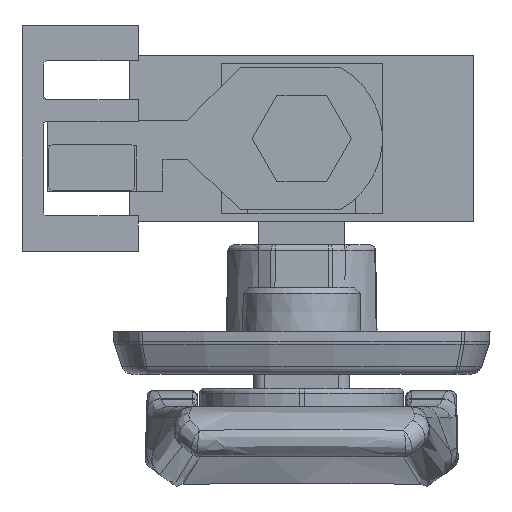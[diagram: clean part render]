
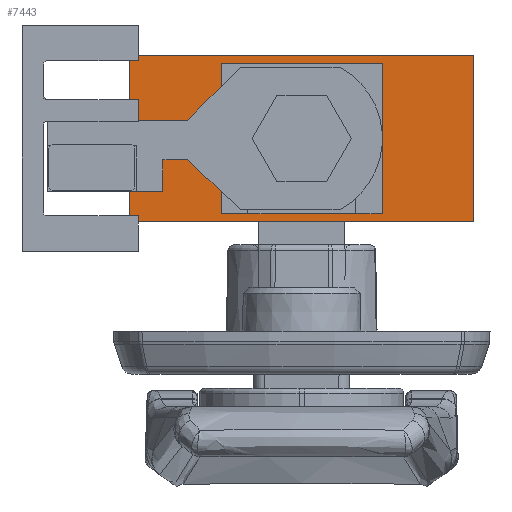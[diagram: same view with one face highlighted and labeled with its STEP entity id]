
A CAD part, front view. The second image highlights one B-rep face of the part: STEP entity #7443.
In plain terms, the highlighted planar face has unit normal (0, -1, 0).
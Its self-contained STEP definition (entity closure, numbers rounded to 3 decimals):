
#724 = CARTESIAN_POINT ( 'NONE',  ( -7., -72.75, -6.25 ) ) ;
#861 = VECTOR ( 'NONE', #3060, 1000. ) ;
#884 = DIRECTION ( 'NONE',  ( 0., 0., -1. ) ) ;
#1543 = EDGE_CURVE ( 'NONE', #27956, #8688, #6269, .T. ) ;
#1721 = DIRECTION ( 'NONE',  ( 0., 0., -1. ) ) ;
#1826 = LINE ( 'NONE', #10901, #5719 ) ;
#2156 = CARTESIAN_POINT ( 'NONE',  ( 7., -72.75, 6.25 ) ) ;
#2866 = FACE_BOUND ( 'NONE', #10383, .T. ) ;
#2943 = CARTESIAN_POINT ( 'NONE',  ( -16., -72.75, 7.75 ) ) ;
#3060 = DIRECTION ( 'NONE',  ( 0., 0., 1. ) ) ;
#3353 = VERTEX_POINT ( 'NONE', #20337 ) ;
#3497 = VERTEX_POINT ( 'NONE', #20957 ) ;
#4099 = CARTESIAN_POINT ( 'NONE',  ( -16., -72.75, -7.75 ) ) ;
#5265 = LINE ( 'NONE', #27351, #14588 ) ;
#5369 = FACE_OUTER_BOUND ( 'NONE', #6887, .T. ) ;
#5436 = CARTESIAN_POINT ( 'NONE',  ( 7., -72.75, -6.25 ) ) ;
#5564 = VECTOR ( 'NONE', #884, 1000. ) ;
#5609 = VERTEX_POINT ( 'NONE', #9839 ) ;
#5719 = VECTOR ( 'NONE', #20443, 1000. ) ;
#6269 = LINE ( 'NONE', #13626, #25534 ) ;
#6887 = EDGE_LOOP ( 'NONE', ( #13827, #29185, #17857, #10668 ) ) ;
#7279 = VERTEX_POINT ( 'NONE', #29971 ) ;
#7443 = ADVANCED_FACE ( 'NONE', ( #2866, #5369 ), #19292, .F. ) ;
#8647 = DIRECTION ( 'NONE',  ( -1., 0., 0. ) ) ;
#8688 = VERTEX_POINT ( 'NONE', #13273 ) ;
#9740 = DIRECTION ( 'NONE',  ( 0., 0., 1. ) ) ;
#9839 = CARTESIAN_POINT ( 'NONE',  ( -7., -72.75, 6.25 ) ) ;
#10084 = CARTESIAN_POINT ( 'NONE',  ( 7., -72.75, 6.25 ) ) ;
#10108 = ORIENTED_EDGE ( 'NONE', *, *, #23764, .F. ) ;
#10383 = EDGE_LOOP ( 'NONE', ( #25140, #10108, #29672, #19520 ) ) ;
#10668 = ORIENTED_EDGE ( 'NONE', *, *, #1543, .T. ) ;
#10901 = CARTESIAN_POINT ( 'NONE',  ( -7., -72.75, -6.25 ) ) ;
#11679 = CARTESIAN_POINT ( 'NONE',  ( -16., -72.75, 7.75 ) ) ;
#11704 = VERTEX_POINT ( 'NONE', #2156 ) ;
#13273 = CARTESIAN_POINT ( 'NONE',  ( -16., -72.75, -7.75 ) ) ;
#13626 = CARTESIAN_POINT ( 'NONE',  ( -16., -72.75, 7.75 ) ) ;
#13800 = VERTEX_POINT ( 'NONE', #5436 ) ;
#13827 = ORIENTED_EDGE ( 'NONE', *, *, #23874, .T. ) ;
#14454 = CARTESIAN_POINT ( 'NONE',  ( -16., -72.75, 7.75 ) ) ;
#14494 = LINE ( 'NONE', #11679, #29267 ) ;
#14588 = VECTOR ( 'NONE', #19654, 1000. ) ;
#14989 = VECTOR ( 'NONE', #8647, 1000. ) ;
#16882 = EDGE_CURVE ( 'NONE', #3497, #13800, #1826, .T. ) ;
#17857 = ORIENTED_EDGE ( 'NONE', *, *, #28333, .F. ) ;
#17910 = LINE ( 'NONE', #724, #5564 ) ;
#18567 = EDGE_CURVE ( 'NONE', #3353, #7279, #5265, .T. ) ;
#18808 = CARTESIAN_POINT ( 'NONE',  ( 7., -72.75, 6.25 ) ) ;
#19218 = AXIS2_PLACEMENT_3D ( 'NONE', #14454, #26205, #9740 ) ;
#19292 = PLANE ( 'NONE',  #19218 ) ;
#19381 = EDGE_CURVE ( 'NONE', #13800, #11704, #24041, .T. ) ;
#19520 = ORIENTED_EDGE ( 'NONE', *, *, #16882, .F. ) ;
#19654 = DIRECTION ( 'NONE',  ( 0., 0., -1. ) ) ;
#20337 = CARTESIAN_POINT ( 'NONE',  ( 16., -72.75, 7.75 ) ) ;
#20443 = DIRECTION ( 'NONE',  ( 1., 0., 0. ) ) ;
#20696 = DIRECTION ( 'NONE',  ( 1., 0., 0. ) ) ;
#20957 = CARTESIAN_POINT ( 'NONE',  ( -7., -72.75, -6.25 ) ) ;
#22170 = LINE ( 'NONE', #18808, #14989 ) ;
#23213 = LINE ( 'NONE', #4099, #24987 ) ;
#23764 = EDGE_CURVE ( 'NONE', #11704, #5609, #22170, .T. ) ;
#23874 = EDGE_CURVE ( 'NONE', #8688, #7279, #23213, .T. ) ;
#24041 = LINE ( 'NONE', #10084, #861 ) ;
#24987 = VECTOR ( 'NONE', #20696, 1000. ) ;
#25140 = ORIENTED_EDGE ( 'NONE', *, *, #25913, .F. ) ;
#25534 = VECTOR ( 'NONE', #1721, 1000. ) ;
#25913 = EDGE_CURVE ( 'NONE', #5609, #3497, #17910, .T. ) ;
#26205 = DIRECTION ( 'NONE',  ( 0., 1., 0. ) ) ;
#27351 = CARTESIAN_POINT ( 'NONE',  ( 16., -72.75, 7.75 ) ) ;
#27956 = VERTEX_POINT ( 'NONE', #2943 ) ;
#28291 = DIRECTION ( 'NONE',  ( 1., 0., 0. ) ) ;
#28333 = EDGE_CURVE ( 'NONE', #27956, #3353, #14494, .T. ) ;
#29185 = ORIENTED_EDGE ( 'NONE', *, *, #18567, .F. ) ;
#29267 = VECTOR ( 'NONE', #28291, 1000. ) ;
#29672 = ORIENTED_EDGE ( 'NONE', *, *, #19381, .F. ) ;
#29971 = CARTESIAN_POINT ( 'NONE',  ( 16., -72.75, -7.75 ) ) ;
